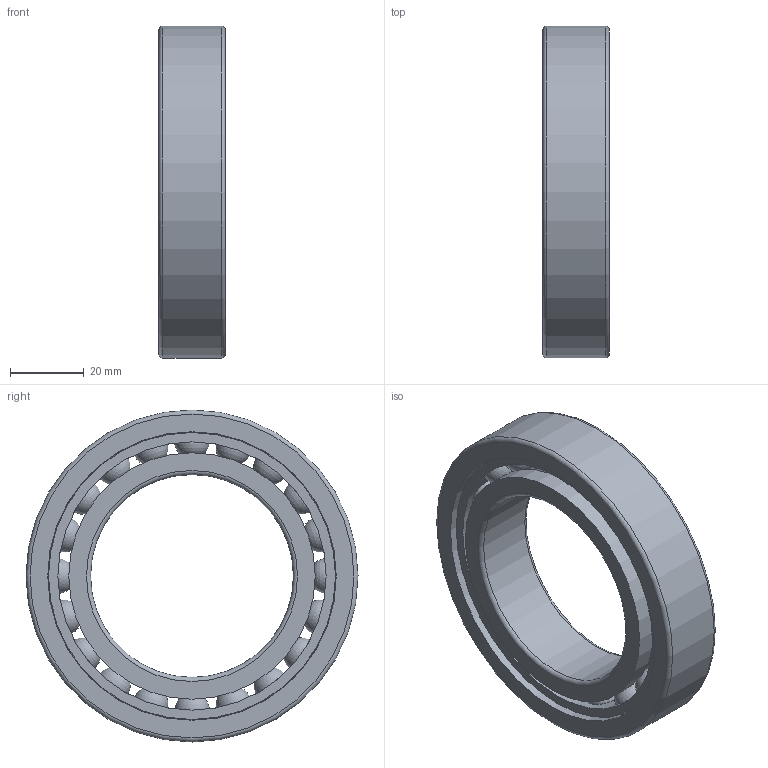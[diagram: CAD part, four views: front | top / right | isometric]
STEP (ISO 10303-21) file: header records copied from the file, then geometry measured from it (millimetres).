
FILE_DESCRIPTION(/* description */ (''),/* implementation_level */ '2;1');
FILE_NAME(/* name */ 'S_6011_TA.step',/* time_stamp */ '2013-03-06T14:43:32+01:00',/* author */ ('Marian'),/* organization */ ('GMN'),/* preprocessor_version */ 'ST-DEVELOPER v11',/* originating_system */ 'SIEMENS UGS NX 6.0',/* authorisation */ '');
FILE_SCHEMA (('CONFIG_CONTROL_DESIGN'));
Length unit declared in the file: millimetre
Products named in the file (1): S_6011_TA
Bounding box: 18 x 90 x 90 mm (x, y, z)
Volume: 54074.8 mm3; surface area: 33475.5 mm2
Topology: 23 solids, 23 shells, 60 faces, 158 edges, 102 vertices
Faces by surface type: cylinder 27, sphere 20, torus 6, plane 6, cone 1
Full cylindrical faces by diameter (mm): 9.725 x20, 55 x1, 66.8 x2, 72.725 x1, 77.8 x1, 78.2 x1, 90 x1
Entity records: 1978 total; most frequent: CARTESIAN_POINT 881, DIRECTION 162, FACE_BOUND 140, EDGE_LOOP 120, ORIENTED_EDGE 120, AXIS2_PLACEMENT_3D 81, VERTEX_POINT 80, EDGE_CURVE 60
